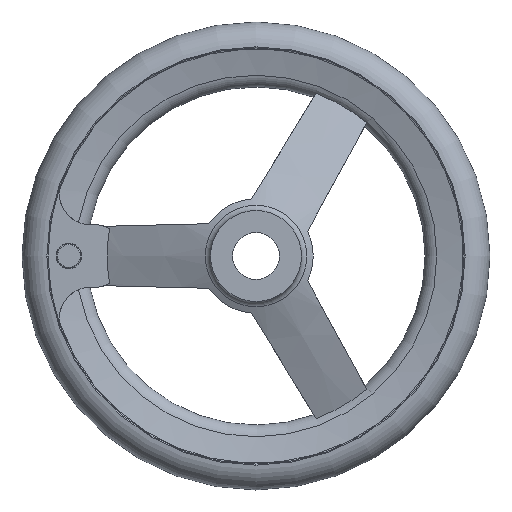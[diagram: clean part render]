
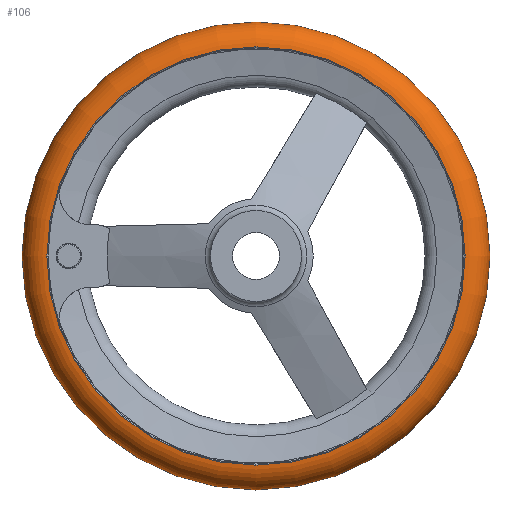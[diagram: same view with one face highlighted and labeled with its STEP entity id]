
A CAD part, left-side view. The second image highlights one B-rep face of the part: STEP entity #106.
In plain terms, the highlighted toroidal (fillet/blend) face has major radius 79.991 mm and minor radius 10.009 mm.
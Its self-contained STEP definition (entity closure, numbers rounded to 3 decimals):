
#106 = ADVANCED_FACE( '', ( #202, #203, #204 ), #205, .T. );
#202 = FACE_BOUND( '', #353, .T. );
#203 = FACE_OUTER_BOUND( '', #354, .T. );
#204 = FACE_OUTER_BOUND( '', #355, .T. );
#205 = TOROIDAL_SURFACE( '', #356, 79.991, 10.009 );
#353 = VERTEX_LOOP( '', #627 );
#354 = EDGE_LOOP( '', ( #628 ) );
#355 = EDGE_LOOP( '', ( #629 ) );
#356 = AXIS2_PLACEMENT_3D( '', #630, #631, #632 );
#627 = VERTEX_POINT( '', #790 );
#628 = ORIENTED_EDGE( '', *, *, #789, .T. );
#629 = ORIENTED_EDGE( '', *, *, #783, .F. );
#630 = CARTESIAN_POINT( '', ( 33., 0., 0. ) );
#631 = DIRECTION( '', ( 1., 0., 0. ) );
#632 = DIRECTION( '', ( 0., 1., 0. ) );
#783 = EDGE_CURVE( '', #933, #933, #934, .T. );
#789 = EDGE_CURVE( '', #944, #944, #945, .T. );
#790 = CARTESIAN_POINT( '', ( 33., 90., 0. ) );
#933 = VERTEX_POINT( '', #1539 );
#934 = CIRCLE( '', #1540, 80.417 );
#944 = VERTEX_POINT( '', #1550 );
#945 = CIRCLE( '', #1551, 80.417 );
#1539 = CARTESIAN_POINT( '', ( 43., 80.417, 0. ) );
#1540 = AXIS2_PLACEMENT_3D( '', #1682, #1683, #1684 );
#1550 = CARTESIAN_POINT( '', ( 23., 80.417, 0. ) );
#1551 = AXIS2_PLACEMENT_3D( '', #1700, #1701, #1702 );
#1682 = CARTESIAN_POINT( '', ( 43., 0., 0. ) );
#1683 = DIRECTION( '', ( 1., 0., 0. ) );
#1684 = DIRECTION( '', ( 0., 1., 0. ) );
#1700 = CARTESIAN_POINT( '', ( 23., 0., 0. ) );
#1701 = DIRECTION( '', ( 1., 0., 0. ) );
#1702 = DIRECTION( '', ( 0., 1., 0. ) );
